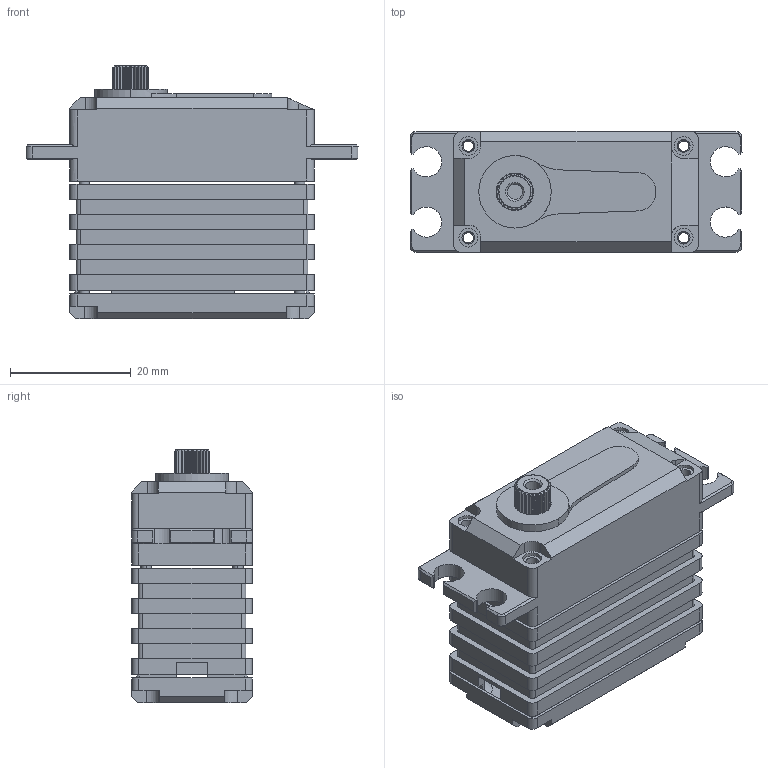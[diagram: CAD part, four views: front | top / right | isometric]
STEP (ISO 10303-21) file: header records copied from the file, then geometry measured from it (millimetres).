
FILE_DESCRIPTION (( 'STEP AP214' ), '1' );
FILE_NAME ('X20-7512_DM_20221218.STEP', '2023-07-11T07:54:31', ( '' ), ( '' ), 'SwSTEP 2.0', 'SolidWorks 2016', '' );
FILE_SCHEMA (( 'AUTOMOTIVE_DESIGN' ));
Length unit declared in the file: millimetre
Products named in the file (1): X20-7512_DM_20221218
Bounding box: 55 x 20 x 41.98 mm (x, y, z)
Surface area: 9705.9 mm2 (no closed solid volume)
Topology: 0 solids, 7 shells, 421 faces, 1243 edges, 843 vertices
Faces by surface type: plane 207, cylinder 175, cone 39
Entity records: 18894 total; most frequent: CARTESIAN_POINT 2798, DIRECTION 2432, ORIENTED_EDGE 2346, EDGE_CURVE 1243, AXIS2_PLACEMENT_3D 849, VERTEX_POINT 843, LINE 734, VECTOR 734
